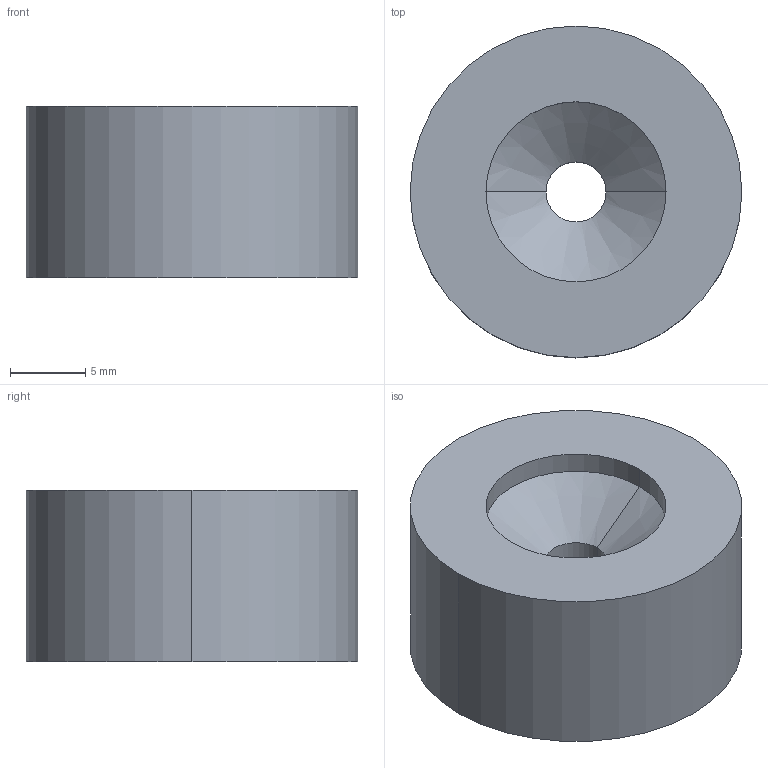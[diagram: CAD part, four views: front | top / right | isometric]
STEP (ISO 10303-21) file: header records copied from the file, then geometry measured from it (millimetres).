
FILE_DESCRIPTION (( 'STEP AP214' ), '1' );
FILE_NAME ('M631.STEP', '2021-12-30T13:28:09', ( '' ), ( '' ), 'SwSTEP 2.0', 'SolidWorks 2021', '' );
FILE_SCHEMA (( 'AUTOMOTIVE_DESIGN' ));
Length unit declared in the file: millimetre
Products named in the file (4): M631; Corpo_0-24; MFA 020 004 010
Assembly tree (3 placements, depth 3):
  M631
    MFA 020 004 010
      MFA 020 004 010
    Corpo_0-24
Bounding box: 22.1 x 22.1 x 11.4 mm (x, y, z)
Volume: 3806.2 mm3; surface area: 3348.8 mm2
Topology: 2 solids, 2 shells, 19 faces, 38 edges, 24 vertices
Faces by surface type: cylinder 10, plane 5, cone 4
Entity records: 659 total; most frequent: DIRECTION 114, CARTESIAN_POINT 88, ORIENTED_EDGE 76, AXIS2_PLACEMENT_3D 50, EDGE_CURVE 38, CIRCLE 24, EDGE_LOOP 24, VERTEX_POINT 24
